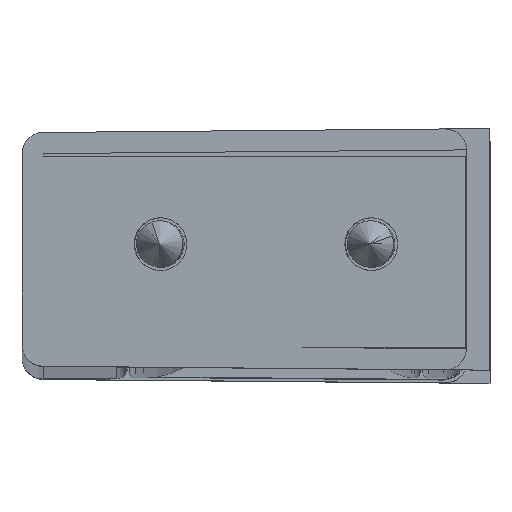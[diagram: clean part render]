
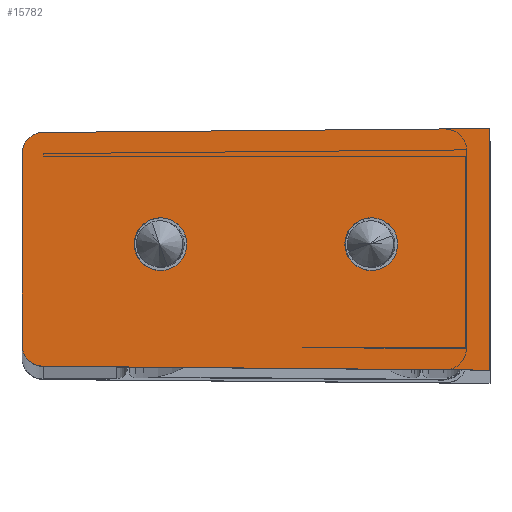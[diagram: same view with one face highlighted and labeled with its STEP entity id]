
A CAD part, top view. The second image highlights one B-rep face of the part: STEP entity #15782.
In plain terms, the highlighted planar face has unit normal (-0.009, 0, 1) as drawn and (0.009, 0, -1) by its records, which use the part's own axes.
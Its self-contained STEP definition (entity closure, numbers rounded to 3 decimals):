
#644 = EDGE_CURVE ( 'NONE', #31625, #30228, #15425, .T. ) ;
#1100 = AXIS2_PLACEMENT_3D ( 'NONE', #39092, #8781, #28601 ) ;
#1259 = CARTESIAN_POINT ( 'NONE',  ( 12.783, 4.1, -3.054 ) ) ;
#2162 = VECTOR ( 'NONE', #8391, 1000. ) ;
#3886 = VECTOR ( 'NONE', #29194, 1000. ) ;
#4735 = ORIENTED_EDGE ( 'NONE', *, *, #26899, .T. ) ;
#5362 = CARTESIAN_POINT ( 'NONE',  ( 19.609, -1.695, -2.995 ) ) ;
#5792 = ORIENTED_EDGE ( 'NONE', *, *, #38907, .T. ) ;
#6397 = CARTESIAN_POINT ( 'NONE',  ( 19.609, -1.695, -2.995 ) ) ;
#6525 = DIRECTION ( 'NONE',  ( 1., 0., 0.009 ) ) ;
#6905 = DIRECTION ( 'NONE',  ( -0.009, 0., 1. ) ) ;
#6907 = CARTESIAN_POINT ( 'NONE',  ( 15.283, 4.1, -3.032 ) ) ;
#6937 = AXIS2_PLACEMENT_3D ( 'NONE', #22438, #16087, #35065 ) ;
#7528 = DIRECTION ( 'NONE',  ( 1., 0., 0.009 ) ) ;
#7933 = ORIENTED_EDGE ( 'NONE', *, *, #644, .T. ) ;
#8288 = VECTOR ( 'NONE', #32166, 1000. ) ;
#8358 = AXIS2_PLACEMENT_3D ( 'NONE', #9496, #29318, #6525 ) ;
#8391 = DIRECTION ( 'NONE',  ( -1., -0.009, -0.009 ) ) ;
#8781 = DIRECTION ( 'NONE',  ( 0.009, 0., -1. ) ) ;
#8927 = EDGE_CURVE ( 'NONE', #38516, #30626, #16331, .T. ) ;
#9496 = CARTESIAN_POINT ( 'NONE',  ( 14.033, 4.1, -3.043 ) ) ;
#10191 = PLANE ( 'NONE',  #1100 ) ;
#11171 =( BOUNDED_CURVE ( )  B_SPLINE_CURVE ( 3, ( #27631, #32474, #31849, #28673 ),
 .UNSPECIFIED., .F., .F. ) 
 B_SPLINE_CURVE_WITH_KNOTS ( ( 4, 4 ),
 ( 1.58, 3.142 ),
 .UNSPECIFIED. ) 
 CURVE ( )  GEOMETRIC_REPRESENTATION_ITEM ( )  RATIONAL_B_SPLINE_CURVE ( ( 1., 0.807, 0.807, 1. ) ) 
 REPRESENTATION_ITEM ( '' )  );
#11498 = CARTESIAN_POINT ( 'NONE',  ( 20.19, -1.69, -2.99 ) ) ;
#11576 = VECTOR ( 'NONE', #13377, 1000. ) ;
#12186 = CARTESIAN_POINT ( 'NONE',  ( 20.6, -0.695, -2.986 ) ) ;
#12418 = VERTEX_POINT ( 'NONE', #27445 ) ;
#12419 = AXIS2_PLACEMENT_3D ( 'NONE', #16403, #6905, #7528 ) ;
#12915 = ORIENTED_EDGE ( 'NONE', *, *, #25969, .T. ) ;
#13377 = DIRECTION ( 'NONE',  ( 0., 1., 0. ) ) ;
#14657 = CARTESIAN_POINT ( 'NONE',  ( 20.6, -0.695, -2.986 ) ) ;
#15063 = CARTESIAN_POINT ( 'NONE',  ( 14.033, 4.1, -3.043 ) ) ;
#15425 = CIRCLE ( 'NONE', #27543, 1.25 ) ;
#15514 = CARTESIAN_POINT ( 'NONE',  ( -1.6, 9.58, -3.18 ) ) ;
#15532 = FACE_BOUND ( 'NONE', #21221, .T. ) ;
#15782 = ADVANCED_FACE ( 'NONE', ( #15532, #40830, #32763 ), #10191, .T. ) ;
#16087 = DIRECTION ( 'NONE',  ( -0.009, 0., 1. ) ) ;
#16331 = LINE ( 'NONE', #16533, #3886 ) ;
#16403 = CARTESIAN_POINT ( 'NONE',  ( 4.033, 4.1, -3.131 ) ) ;
#16533 = CARTESIAN_POINT ( 'NONE',  ( 19.126, 9.399, -2.999 ) ) ;
#17102 = VERTEX_POINT ( 'NONE', #6397 ) ;
#18160 = EDGE_LOOP ( 'NONE', ( #22251, #5792 ) ) ;
#18377 = EDGE_CURVE ( 'NONE', #30626, #31796, #11171, .T. ) ;
#18688 = ORIENTED_EDGE ( 'NONE', *, *, #32570, .T. ) ;
#19320 = CARTESIAN_POINT ( 'NONE',  ( 20.6, 9.4, -2.986 ) ) ;
#21221 = EDGE_LOOP ( 'NONE', ( #7933, #28448 ) ) ;
#21546 =( BOUNDED_CURVE ( )  B_SPLINE_CURVE ( 3, ( #14657, #27517, #11498, #5362 ),
 .UNSPECIFIED., .F., .F. ) 
 B_SPLINE_CURVE_WITH_KNOTS ( ( 4, 4 ),
 ( 3.142, 4.704 ),
 .UNSPECIFIED. ) 
 CURVE ( )  GEOMETRIC_REPRESENTATION_ITEM ( )  RATIONAL_B_SPLINE_CURVE ( ( 1., 0.807, 0.807, 1. ) ) 
 REPRESENTATION_ITEM ( '' )  );
#21850 = DIRECTION ( 'NONE',  ( 1., 0., 0.009 ) ) ;
#22251 = ORIENTED_EDGE ( 'NONE', *, *, #27595, .T. ) ;
#22438 = CARTESIAN_POINT ( 'NONE',  ( 4.033, 4.1, -3.131 ) ) ;
#25156 = CIRCLE ( 'NONE', #6937, 1.25 ) ;
#25969 = EDGE_CURVE ( 'NONE', #17102, #28740, #33728, .T. ) ;
#26742 = CARTESIAN_POINT ( 'NONE',  ( -1.6, -1.88, -3.18 ) ) ;
#26899 = EDGE_CURVE ( 'NONE', #31796, #30835, #28788, .T. ) ;
#27174 = CARTESIAN_POINT ( 'NONE',  ( 19.609, 9.395, -2.995 ) ) ;
#27445 = CARTESIAN_POINT ( 'NONE',  ( 2.783, 4.1, -3.142 ) ) ;
#27517 = CARTESIAN_POINT ( 'NONE',  ( 20.6, -1.276, -2.986 ) ) ;
#27536 = CARTESIAN_POINT ( 'NONE',  ( 20.6, 8.395, -2.986 ) ) ;
#27543 = AXIS2_PLACEMENT_3D ( 'NONE', #15063, #31523, #21850 ) ;
#27595 = EDGE_CURVE ( 'NONE', #38242, #12418, #33873, .T. ) ;
#27596 = CARTESIAN_POINT ( 'NONE',  ( 19.126, -1.699, -2.999 ) ) ;
#27631 = CARTESIAN_POINT ( 'NONE',  ( 19.609, 9.395, -2.995 ) ) ;
#28448 = ORIENTED_EDGE ( 'NONE', *, *, #35246, .T. ) ;
#28601 = DIRECTION ( 'NONE',  ( -1., 0., -0.009 ) ) ;
#28673 = CARTESIAN_POINT ( 'NONE',  ( 20.6, 8.395, -2.986 ) ) ;
#28740 = VERTEX_POINT ( 'NONE', #26742 ) ;
#28788 = LINE ( 'NONE', #19320, #8288 ) ;
#29194 = DIRECTION ( 'NONE',  ( 1., -0.009, 0.009 ) ) ;
#29318 = DIRECTION ( 'NONE',  ( -0.009, 0., 1. ) ) ;
#30169 = EDGE_CURVE ( 'NONE', #30835, #17102, #21546, .T. ) ;
#30228 = VERTEX_POINT ( 'NONE', #1259 ) ;
#30626 = VERTEX_POINT ( 'NONE', #27174 ) ;
#30835 = VERTEX_POINT ( 'NONE', #12186 ) ;
#31523 = DIRECTION ( 'NONE',  ( -0.009, 0., 1. ) ) ;
#31625 = VERTEX_POINT ( 'NONE', #6907 ) ;
#31796 = VERTEX_POINT ( 'NONE', #27536 ) ;
#31849 = CARTESIAN_POINT ( 'NONE',  ( 20.6, 8.976, -2.986 ) ) ;
#32166 = DIRECTION ( 'NONE',  ( 0., -1., 0. ) ) ;
#32474 = CARTESIAN_POINT ( 'NONE',  ( 20.19, 9.39, -2.99 ) ) ;
#32508 = ORIENTED_EDGE ( 'NONE', *, *, #8927, .T. ) ;
#32570 = EDGE_CURVE ( 'NONE', #28740, #38516, #35931, .T. ) ;
#32763 = FACE_OUTER_BOUND ( 'NONE', #34247, .T. ) ;
#33728 = LINE ( 'NONE', #27596, #2162 ) ;
#33873 = CIRCLE ( 'NONE', #12419, 1.25 ) ;
#34247 = EDGE_LOOP ( 'NONE', ( #4735, #41125, #12915, #18688, #32508, #37383 ) ) ;
#35065 = DIRECTION ( 'NONE',  ( 1., 0., 0.009 ) ) ;
#35246 = EDGE_CURVE ( 'NONE', #30228, #31625, #38682, .T. ) ;
#35931 = LINE ( 'NONE', #39322, #11576 ) ;
#37383 = ORIENTED_EDGE ( 'NONE', *, *, #18377, .T. ) ;
#38242 = VERTEX_POINT ( 'NONE', #38948 ) ;
#38516 = VERTEX_POINT ( 'NONE', #15514 ) ;
#38682 = CIRCLE ( 'NONE', #8358, 1.25 ) ;
#38907 = EDGE_CURVE ( 'NONE', #12418, #38242, #25156, .T. ) ;
#38948 = CARTESIAN_POINT ( 'NONE',  ( 5.283, 4.1, -3.12 ) ) ;
#39092 = CARTESIAN_POINT ( 'NONE',  ( 19., 0., -3. ) ) ;
#39322 = CARTESIAN_POINT ( 'NONE',  ( -1.6, -1.7, -3.18 ) ) ;
#40830 = FACE_BOUND ( 'NONE', #18160, .T. ) ;
#41125 = ORIENTED_EDGE ( 'NONE', *, *, #30169, .T. ) ;
